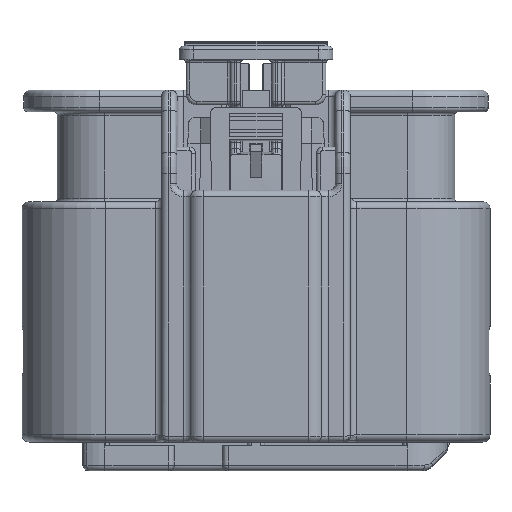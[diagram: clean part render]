
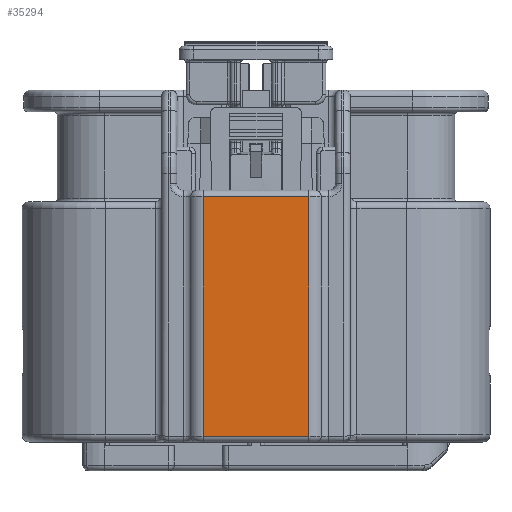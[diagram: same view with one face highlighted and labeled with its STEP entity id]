
A CAD part, front view. The second image highlights one B-rep face of the part: STEP entity #35294.
In plain terms, the highlighted planar face has unit normal (0, -1, 0).
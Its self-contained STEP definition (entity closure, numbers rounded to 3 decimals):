
#3767=DIRECTION('',(1.,0.,0.));
#3768=VECTOR('',#3767,7.321);
#3769=CARTESIAN_POINT('',(5.067,-3.109,1.9));
#3770=LINE('',#3769,#3768);
#3779=DIRECTION('',(0.,0.,-1.));
#3780=VECTOR('',#3779,16.6);
#3781=CARTESIAN_POINT('',(12.389,-3.109,1.9));
#3782=LINE('',#3781,#3780);
#3812=DIRECTION('',(-1.,0.,0.));
#3813=VECTOR('',#3812,7.321);
#3814=CARTESIAN_POINT('',(12.389,-3.109,-14.7));
#3815=LINE('',#3814,#3813);
#3835=DIRECTION('',(0.,0.,1.));
#3836=VECTOR('',#3835,16.6);
#3837=CARTESIAN_POINT('',(5.067,-3.109,-14.7));
#3838=LINE('',#3837,#3836);
#23130=CARTESIAN_POINT('',(5.067,-3.109,-14.7));
#23132=VERTEX_POINT('',#23130);
#23311=CARTESIAN_POINT('',(12.389,-3.109,-14.7));
#23312=VERTEX_POINT('',#23311);
#23709=CARTESIAN_POINT('',(5.067,-3.109,1.9));
#23710=VERTEX_POINT('',#23709);
#24190=CARTESIAN_POINT('',(12.389,-3.109,1.9));
#24191=VERTEX_POINT('',#24190);
#35280=CARTESIAN_POINT('',(6.208,-3.109,
0.849));
#35281=DIRECTION('',(0.,-1.,0.));
#35282=DIRECTION('',(0.,0.,1.));
#35283=AXIS2_PLACEMENT_3D('',#35280,#35281,#35282);
#35284=PLANE('',#35283);
#35286=ORIENTED_EDGE('',*,*,#35285,.T.);
#35288=ORIENTED_EDGE('',*,*,#35287,.T.);
#35290=ORIENTED_EDGE('',*,*,#35289,.T.);
#35291=ORIENTED_EDGE('',*,*,#35270,.T.);
#35292=EDGE_LOOP('',(#35286,#35288,#35290,#35291));
#35293=FACE_OUTER_BOUND('',#35292,.F.);
#35294=ADVANCED_FACE('',(#35293),#35284,.T.);
#35270=EDGE_CURVE('',#23710,#24191,#3770,.T.);
#35285=EDGE_CURVE('',#24191,#23312,#3782,.T.);
#35287=EDGE_CURVE('',#23312,#23132,#3815,.T.);
#35289=EDGE_CURVE('',#23132,#23710,#3838,.T.);
